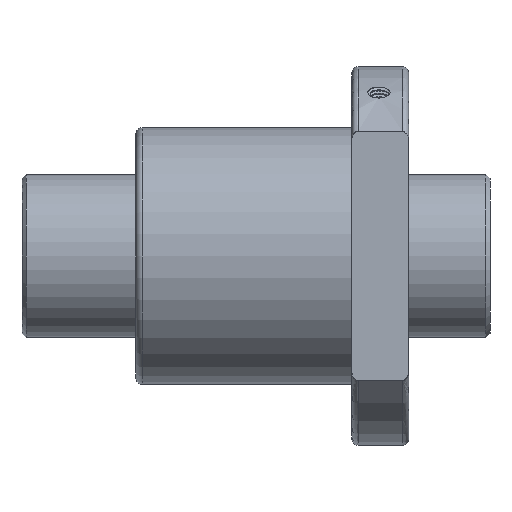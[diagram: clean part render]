
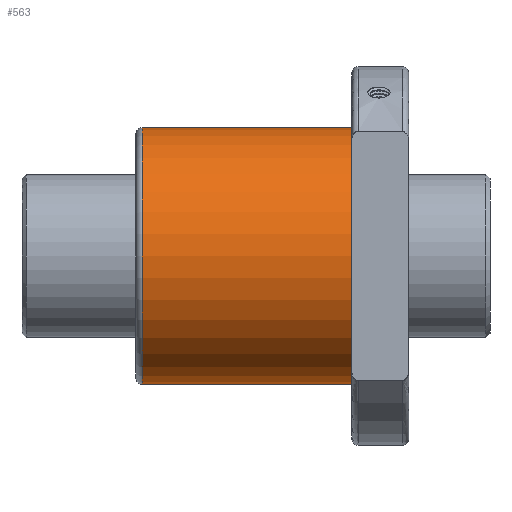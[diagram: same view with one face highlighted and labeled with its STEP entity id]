
A CAD part, front view. The second image highlights one B-rep face of the part: STEP entity #563.
In plain terms, the highlighted cylindrical face has radius 31.5 mm (diameter 63 mm), a full revolution.
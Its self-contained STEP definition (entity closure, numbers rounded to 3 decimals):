
#107=CIRCLE('',#636,31.5);
#115=CIRCLE('',#655,31.5);
#181=ORIENTED_EDGE('',*,*,#295,.T.);
#182=ORIENTED_EDGE('',*,*,#279,.F.);
#279=EDGE_CURVE('',#344,#344,#107,.T.);
#295=EDGE_CURVE('',#360,#360,#115,.T.);
#344=VERTEX_POINT('',#900);
#360=VERTEX_POINT('',#962);
#428=EDGE_LOOP('',(#181));
#429=EDGE_LOOP('',(#182));
#501=FACE_BOUND('',#428,.T.);
#502=FACE_BOUND('',#429,.T.);
#544=CYLINDRICAL_SURFACE('',#654,31.5);
#563=ADVANCED_FACE('',(#501,#502),#544,.T.);
#636=AXIS2_PLACEMENT_3D('',#899,#741,#742);
#654=AXIS2_PLACEMENT_3D('',#960,#781,#782);
#655=AXIS2_PLACEMENT_3D('',#961,#783,#784);
#741=DIRECTION('',(1.,0.,0.));
#742=DIRECTION('',(0.,0.,-1.));
#781=DIRECTION('',(1.,0.,0.));
#782=DIRECTION('',(0.,0.,-1.));
#783=DIRECTION('',(1.,0.,0.));
#784=DIRECTION('',(0.,0.,-1.));
#899=CARTESIAN_POINT('',(-34.,0.,0.));
#900=CARTESIAN_POINT('',(-34.,0.,-31.5));
#960=CARTESIAN_POINT('',(-95.,0.,0.));
#961=CARTESIAN_POINT('',(-85.5,0.,0.));
#962=CARTESIAN_POINT('',(-85.5,0.,-31.5));
